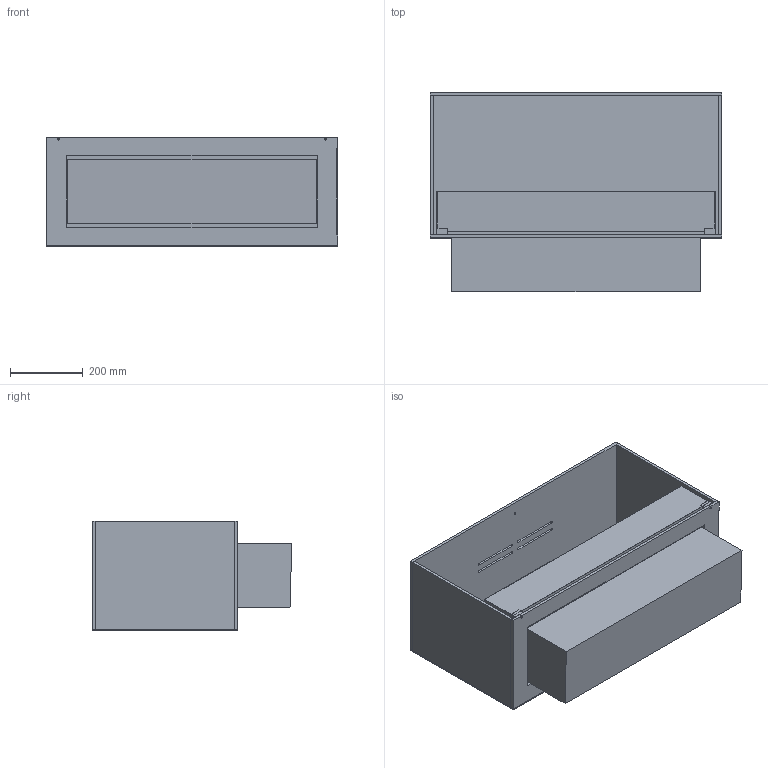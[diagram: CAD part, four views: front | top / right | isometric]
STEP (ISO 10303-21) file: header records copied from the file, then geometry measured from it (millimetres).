
FILE_DESCRIPTION (( 'STEP AP203' ), '1' );
FILE_NAME ('Montreal open front 800 F3.STEP', '2024-03-13T10:38:45', ( '' ), ( '' ), 'SwSTEP 2.0', 'SolidWorks 2023', '' );
FILE_SCHEMA (( 'CONFIG_CONTROL_DESIGN' ));
Length unit declared in the file: millimetre
Products named in the file (9): Glas holder flad med sider 10mm; Part1^P&G -1120SI Montreal Single AUTOShowroom -look book; 8mm alu Bund - P&G -1120SIShowroom -look book; 8mm alu Side - P&G -1120SIShowroom -look book_Glass; Montreal open front 800 F3; Part3^P&G -1120SI Montreal Single AUTOShowroom -look book; 3mm alu Bag - P&G -1120SIShowroom -look book; 8mm alu Top - P&G -1120SIShowroom -look book; Denver F6
Assembly tree (9 placements, depth 2):
  Montreal open front 800 F3
    8mm alu Top - P&G -1120SIShowroom -look book
    8mm alu Bund - P&G -1120SIShowroom -look book
    8mm alu Side - P&G -1120SIShowroom -look book_Glass  x2
    3mm alu Bag - P&G -1120SIShowroom -look book
    Glas holder flad med sider 10mm  x2
    Part1^P&G -1120SI Montreal Single AUTOShowroom -look book
    Denver F6
  Part3^P&G -1120SI Montreal Single AUTOShowroom -look book
Bounding box: 800 x 548 x 300 mm (x, y, z)
Volume: 25423081 mm3; surface area: 2882476.1 mm2
Topology: 13 solids, 13 shells, 192 faces, 492 edges, 328 vertices
Faces by surface type: plane 140, cylinder 52
Entity records: 6168 total; most frequent: CARTESIAN_POINT 911, DIRECTION 892, ORIENTED_EDGE 876, EDGE_CURVE 438, LINE 346, VECTOR 346, VERTEX_POINT 292, AXIS2_PLACEMENT_3D 273
